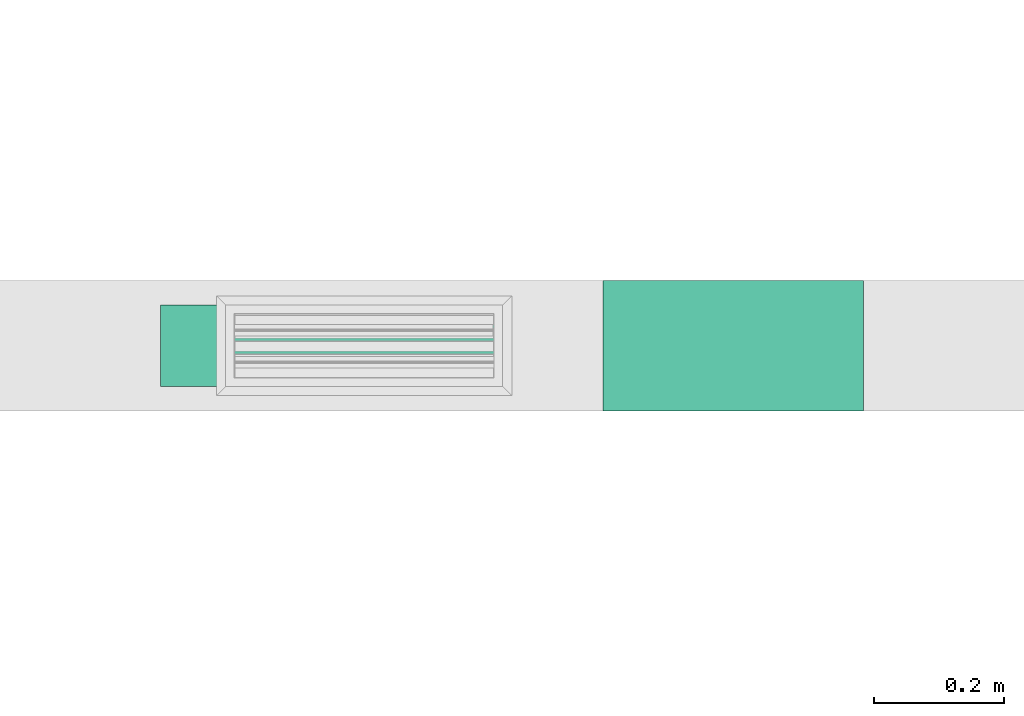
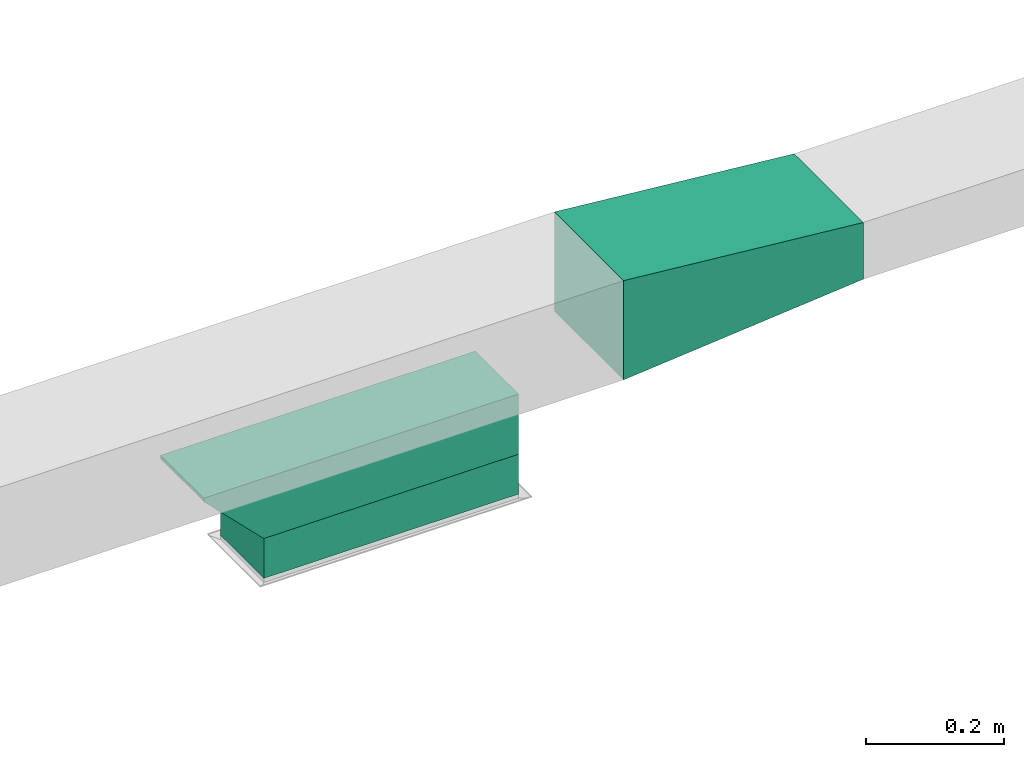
# One storey, part 11 of 22: 2 flow fittings, 1 flow segment.
"""IFC2X3 building model written with IfcOpenShell, lengths in millimetres."""

from ifc_helpers import new_model, entity, si_unit, converted_unit, derived_unit, direction, frame, frame_2d, origin, place, context, subcontext, project, spatial, polyline, rectangle, outline, extrude, source, transform, mapped, material, type_object, type_shapes, element, save


model = new_model("IFC2X3")

# Units and contexts
model_context = context("Model", 3, precision=0.01, world=origin(), true_north=direction((6.123233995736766e-17, 1.0)))
body_context = subcontext(model_context, "Body", "Model", "MODEL_VIEW")
ifc_project = project(units=[si_unit("LENGTHUNIT", "METRE", prefix="MILLI"), converted_unit("PLANEANGLEUNIT", "DEGREE", entity("IfcPlaneAngleMeasure", 0.017453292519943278), si_unit("PLANEANGLEUNIT", "RADIAN"), dimensions=[0, 0, 0, 0, 0, 0, 0]), si_unit("AREAUNIT", "SQUARE_METRE"), derived_unit("THERMALTRANSMITTANCEUNIT", [(si_unit("MASSUNIT", "GRAM", prefix="KILO"), 1), (si_unit("THERMODYNAMICTEMPERATUREUNIT", "KELVIN"), -1), (si_unit("TIMEUNIT", "SECOND"), -3)])], contexts=[model_context])

# Site, building, storey
site_placement = place(None, origin())
site = spatial("IfcSite", under=ifc_project, at=site_placement, Name="Default", CompositionType="ELEMENT")
building_placement = place(site_placement, origin())
building = spatial("IfcBuilding", under=site, at=building_placement, Name="Praça Pedro II, 1301 - Centro (Sul), Teresina - PI, 64001-100", CompositionType="ELEMENT")
storey_placement = place(building_placement, frame((0.0, 0.0, 320.0)))
storey = spatial("IfcBuildingStorey", under=building, at=storey_placement, Name="TÉRREO +0.32m", CompositionType="ELEMENT", Elevation=319.99999999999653)

# Flow segment
duct_segment_type = type_object("IfcDuctSegmentType", Name="Duto retangular:Raios cotovelos / torneiras", PredefinedType="NOTDEFINED")
flow_segment_placement = place(storey_placement, origin())
element("IfcFlowSegment", 1, at=flow_segment_placement, inside=storey, type_object=duct_segment_type, Name="Duto retangular:Raios cotovelos / torneiras", ObjectType="Duto retangular:Raios cotovelos / torneiras", context=body_context, shape_type="SweptSolid", body=[
    extrude(rectangle(XDim=125.00000000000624, YDim=424.9999999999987, at=frame_2d((-8.661515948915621e-12, 0.0), x_axis=(1.0, 0.0))), frame((25349.70209825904, -52054.62602949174, 1842.0), z_axis=(0.0, 0.0, 1.0), x_axis=(0.0, 1.0, 0.0)), (0.0, 0.0, 1.0), 70.50000000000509),
])

# Flow fittings
ifc_material = material(Name="<Unnamed>")
duct_fitting_type_1 = type_object("IfcDuctFittingType", Name="M_Rectangular Transition - L:400 mm (L)", PredefinedType="NOTDEFINED", material=ifc_material)
shared_shape_1 = source(origin(), body_context, "Body", "SweptSolid", [
    extrude(outline(polyline([(-194.4598097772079, -68.44985304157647), (207.29415722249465, -68.44985304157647), (190.95953320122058, 105.7861365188), (-203.79388064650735, 31.113569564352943), (-194.4598097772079, -68.44985304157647)])), frame((200.0, -100.0, 0.0), z_axis=(0.0, 1.0, 0.0), x_axis=(0.9956342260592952, 0.0, 0.09334070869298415)), (0.0, 0.0, 1.0), 199.99999999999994),
])
type_shapes(duct_fitting_type_1, [shared_shape_1])
flow_fitting_1_placement = place(storey_placement, frame((26115.75834078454, -52054.6260294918, 2100.0), z_axis=(0.0, 0.0, 1.0), x_axis=(-1.0, 0.0, 0.0)))
element("IfcFlowFitting", 2, at=flow_fitting_1_placement, inside=storey, type_object=duct_fitting_type_1, material=ifc_material, Name="M_Rectangular Transition - L:400 mm (L)", ObjectType="M_Rectangular Transition - L:400 mm (L)", context=body_context, shape_type="MappedRepresentation", body=[
    mapped(shared_shape_1, transform((0.0, 0.0, 0.0), scale=1.0)),
])
duct_fitting_type_2 = type_object("IfcDuctFittingType", Name="M_Rectangular Tap - Beveled:Standard", PredefinedType="NOTDEFINED", material=ifc_material)
shared_shape_2 = source(origin(), body_context, "Body", "SweptSolid", [
    extrude(outline(polyline([(-295.0, -62.438400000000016), (130.0, -62.438400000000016), (230.0, 37.56159999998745), (230.0, 43.657600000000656), (-295.0, 43.65759999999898), (-295.0, -62.438400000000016)])), frame((37.561600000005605, 82.50000000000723, -62.49999999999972), z_axis=(0.0, 0.0, 1.0), x_axis=(0.0, 1.0, 0.0)), (0.0, 0.0, 1.0), 124.99999999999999),
])
type_shapes(duct_fitting_type_2, [shared_shape_2])
flow_fitting_2_placement = place(storey_placement, frame((25349.70209825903, -52054.626029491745, 2012.5000000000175), z_axis=(0.0, 1.0, 0.0), x_axis=(0.0, 0.0, -1.0)))
element("IfcFlowFitting", 3, at=flow_fitting_2_placement, inside=storey, type_object=duct_fitting_type_2, material=ifc_material, Name="M_Rectangular Tap - Beveled:Standard", ObjectType="M_Rectangular Tap - Beveled:Standard", context=body_context, shape_type="MappedRepresentation", body=[
    mapped(shared_shape_2, transform((0.0, 0.0, 0.0), scale=1.0)),
])

save(model, "model.ifc")
